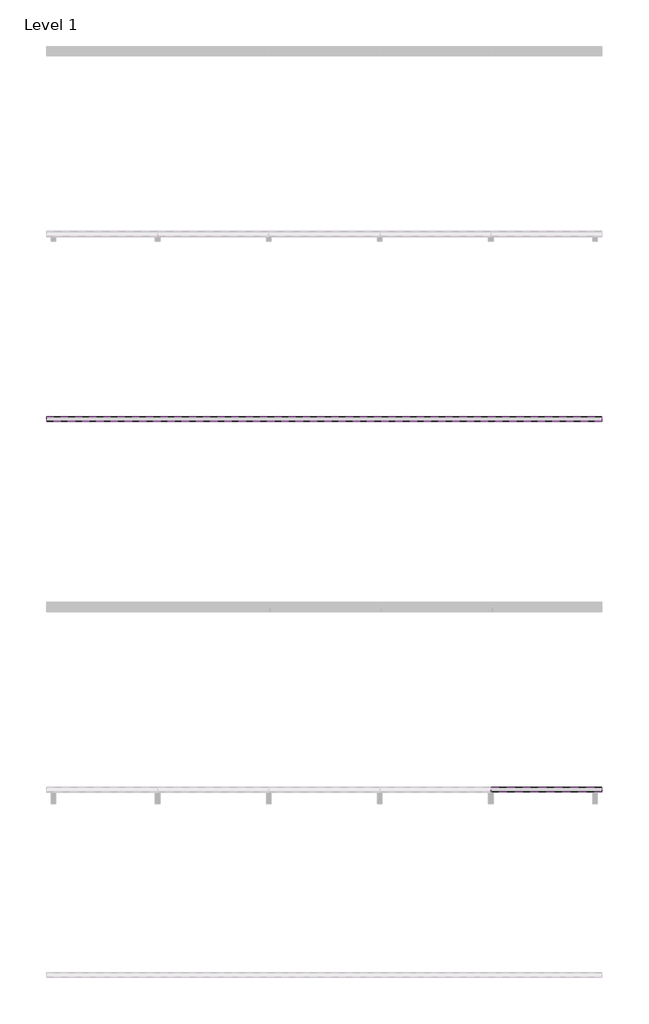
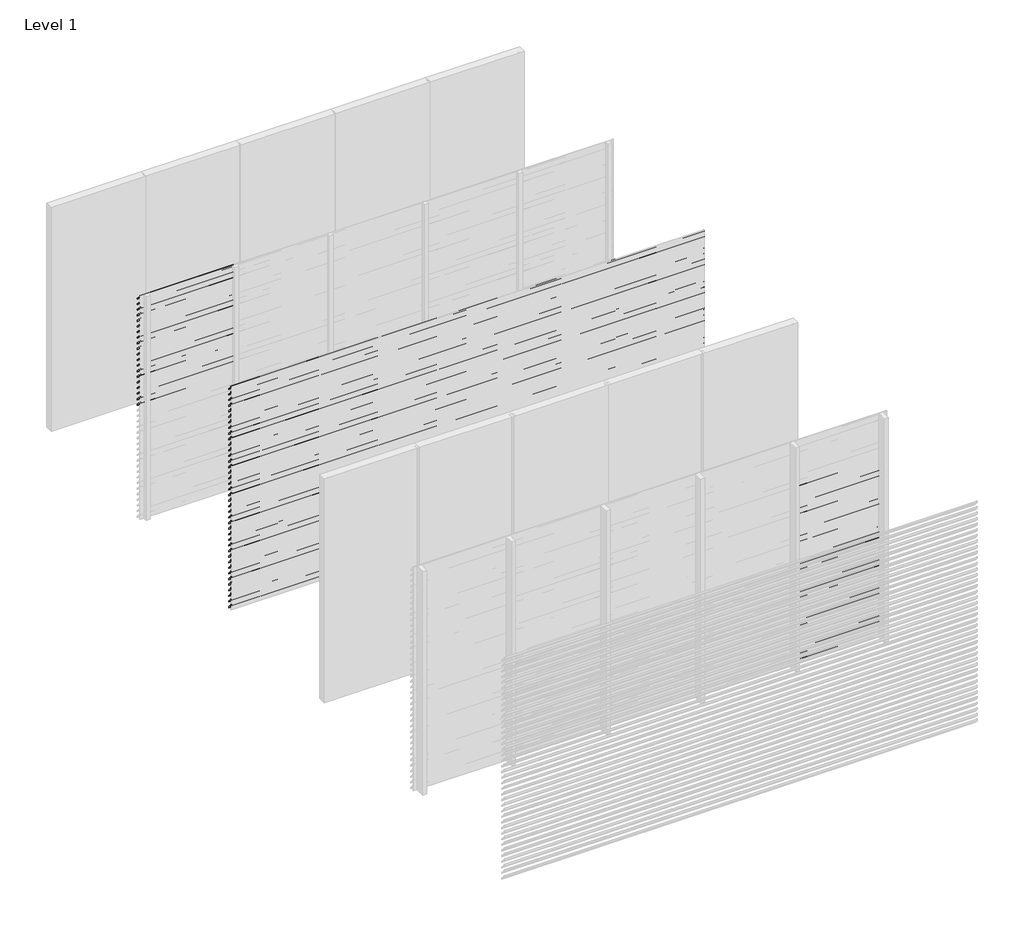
# One storey, part 4 of 11: 92 proxies.
"""IFC4 building model written with IfcOpenShell, lengths in millimetres."""

from ifc_helpers import new_model, si_unit, frame, origin, place, context, project, spatial, polyline, outline, extrude, element, save

model = new_model("IFC4")

# Units and contexts
model_context = context("Model", 3, world=origin())
ifc_project = project(units=[si_unit("LENGTHUNIT", "METRE", prefix="MILLI")], contexts=[model_context])

# Site, building, storey
site = spatial("IfcSite", under=ifc_project)
building = spatial("IfcBuilding", under=site)
storey = spatial("IfcBuildingStorey", under=building, Name="Level 1", Elevation=0.0)

# Proxies
placement = place(None, origin())
element("IfcBuildingElementProxy", 1, Name="Wall Sweeps", at=placement, inside=storey, context=model_context, shape_type="SweptSolid", body=[
    extrude(outline(polyline([(-11995.0, 3000.0), (-11995.0, 2990.7409854), (-11946.0, 2940.0), (-11946.0, 2924.0), (-11997.0, 2976.812046), (-11997.0, 3000.0), (-11995.0, 3000.0)])), frame((0.0, 0.0, 0.0), z_axis=(1.0, 0.0, 0.0), x_axis=(0.0, 1.0, 0.0)), (0.0, 0.0, 1.0), 1200.0),
])
element("IfcBuildingElementProxy", 2, Name="Wall Sweeps", at=placement, inside=storey, context=model_context, shape_type="SweptSolid", body=[
    extrude(outline(polyline([(-11995.0, 2925.0), (-11995.0, 2915.7409854), (-11946.0, 2865.0), (-11946.0, 2849.0), (-11997.0, 2901.812046), (-11997.0, 2925.0), (-11995.0, 2925.0)])), frame((0.0, 0.0, 0.0), z_axis=(1.0, 0.0, 0.0), x_axis=(0.0, 1.0, 0.0)), (0.0, 0.0, 1.0), 1200.0),
])
element("IfcBuildingElementProxy", 3, Name="Wall Sweeps", at=placement, inside=storey, context=model_context, shape_type="SweptSolid", body=[
    extrude(outline(polyline([(-11995.0, 2850.0), (-11995.0, 2840.7409854), (-11946.0, 2790.0), (-11946.0, 2774.0), (-11997.0, 2826.812046), (-11997.0, 2850.0), (-11995.0, 2850.0)])), frame((0.0, 0.0, 0.0), z_axis=(1.0, 0.0, 0.0), x_axis=(0.0, 1.0, 0.0)), (0.0, 0.0, 1.0), 1200.0),
])
element("IfcBuildingElementProxy", 4, Name="Wall Sweeps", at=placement, inside=storey, context=model_context, shape_type="SweptSolid", body=[
    extrude(outline(polyline([(-11995.0, 2775.0), (-11995.0, 2765.7409854), (-11946.0, 2715.0), (-11946.0, 2699.0), (-11997.0, 2751.812046), (-11997.0, 2775.0), (-11995.0, 2775.0)])), frame((0.0, 0.0, 0.0), z_axis=(1.0, 0.0, 0.0), x_axis=(0.0, 1.0, 0.0)), (0.0, 0.0, 1.0), 1200.0),
])
element("IfcBuildingElementProxy", 5, Name="Wall Sweeps", at=placement, inside=storey, context=model_context, shape_type="SweptSolid", body=[
    extrude(outline(polyline([(-11995.0, 2700.0), (-11995.0, 2690.7409854), (-11946.0, 2640.0), (-11946.0, 2624.0), (-11997.0, 2676.812046), (-11997.0, 2700.0), (-11995.0, 2700.0)])), frame((0.0, 0.0, 0.0), z_axis=(1.0, 0.0, 0.0), x_axis=(0.0, 1.0, 0.0)), (0.0, 0.0, 1.0), 1200.0),
])
element("IfcBuildingElementProxy", 6, Name="Wall Sweeps", at=placement, inside=storey, context=model_context, shape_type="SweptSolid", body=[
    extrude(outline(polyline([(-11995.0, 2625.0), (-11995.0, 2615.7409854), (-11946.0, 2565.0), (-11946.0, 2549.0), (-11997.0, 2601.812046), (-11997.0, 2625.0), (-11995.0, 2625.0)])), frame((0.0, 0.0, 0.0), z_axis=(1.0, 0.0, 0.0), x_axis=(0.0, 1.0, 0.0)), (0.0, 0.0, 1.0), 1200.0),
])
element("IfcBuildingElementProxy", 7, Name="Wall Sweeps", at=placement, inside=storey, context=model_context, shape_type="SweptSolid", body=[
    extrude(outline(polyline([(-11995.0, 2550.0), (-11995.0, 2540.7409854), (-11946.0, 2490.0), (-11946.0, 2474.0), (-11997.0, 2526.812046), (-11997.0, 2550.0), (-11995.0, 2550.0)])), frame((0.0, 0.0, 0.0), z_axis=(1.0, 0.0, 0.0), x_axis=(0.0, 1.0, 0.0)), (0.0, 0.0, 1.0), 1200.0),
])
element("IfcBuildingElementProxy", 8, Name="Wall Sweeps", at=placement, inside=storey, context=model_context, shape_type="SweptSolid", body=[
    extrude(outline(polyline([(-11995.0, 2475.0), (-11995.0, 2465.7409854), (-11946.0, 2415.0), (-11946.0, 2399.0), (-11997.0, 2451.812046), (-11997.0, 2475.0), (-11995.0, 2475.0)])), frame((0.0, 0.0, 0.0), z_axis=(1.0, 0.0, 0.0), x_axis=(0.0, 1.0, 0.0)), (0.0, 0.0, 1.0), 1200.0),
])
element("IfcBuildingElementProxy", 9, Name="Wall Sweeps", at=placement, inside=storey, context=model_context, shape_type="SweptSolid", body=[
    extrude(outline(polyline([(-11995.0, 2400.0), (-11995.0, 2390.7409854), (-11946.0, 2340.0), (-11946.0, 2324.0), (-11997.0, 2376.812046), (-11997.0, 2400.0), (-11995.0, 2400.0)])), frame((0.0, 0.0, 0.0), z_axis=(1.0, 0.0, 0.0), x_axis=(0.0, 1.0, 0.0)), (0.0, 0.0, 1.0), 1200.0),
])
element("IfcBuildingElementProxy", 10, Name="Wall Sweeps", at=placement, inside=storey, context=model_context, shape_type="SweptSolid", body=[
    extrude(outline(polyline([(-11995.0, 2325.0), (-11995.0, 2315.7409854), (-11946.0, 2265.0), (-11946.0, 2249.0), (-11997.0, 2301.812046), (-11997.0, 2325.0), (-11995.0, 2325.0)])), frame((0.0, 0.0, 0.0), z_axis=(1.0, 0.0, 0.0), x_axis=(0.0, 1.0, 0.0)), (0.0, 0.0, 1.0), 1200.0),
])
element("IfcBuildingElementProxy", 11, Name="Wall Sweeps", at=placement, inside=storey, context=model_context, shape_type="SweptSolid", body=[
    extrude(outline(polyline([(-11995.0, 2250.0), (-11995.0, 2240.7409854), (-11946.0, 2190.0), (-11946.0, 2174.0), (-11997.0, 2226.812046), (-11997.0, 2250.0), (-11995.0, 2250.0)])), frame((0.0, 0.0, 0.0), z_axis=(1.0, 0.0, 0.0), x_axis=(0.0, 1.0, 0.0)), (0.0, 0.0, 1.0), 1200.0),
])
element("IfcBuildingElementProxy", 12, Name="Wall Sweeps", at=placement, inside=storey, context=model_context, shape_type="SweptSolid", body=[
    extrude(outline(polyline([(-11995.0, 2175.0), (-11995.0, 2165.7409854), (-11946.0, 2115.0), (-11946.0, 2099.0), (-11997.0, 2151.812046), (-11997.0, 2175.0), (-11995.0, 2175.0)])), frame((0.0, 0.0, 0.0), z_axis=(1.0, 0.0, 0.0), x_axis=(0.0, 1.0, 0.0)), (0.0, 0.0, 1.0), 1200.0),
])
element("IfcBuildingElementProxy", 13, Name="Wall Sweeps", at=placement, inside=storey, context=model_context, shape_type="SweptSolid", body=[
    extrude(outline(polyline([(-11995.0, 2100.0), (-11995.0, 2090.7409854), (-11946.0, 2040.0), (-11946.0, 2024.0), (-11997.0, 2076.812046), (-11997.0, 2100.0), (-11995.0, 2100.0)])), frame((0.0, 0.0, 0.0), z_axis=(1.0, 0.0, 0.0), x_axis=(0.0, 1.0, 0.0)), (0.0, 0.0, 1.0), 1200.0),
])
element("IfcBuildingElementProxy", 14, Name="Wall Sweeps", at=placement, inside=storey, context=model_context, shape_type="SweptSolid", body=[
    extrude(outline(polyline([(-11995.0, 2025.0), (-11995.0, 2015.7409854), (-11946.0, 1965.0), (-11946.0, 1949.0), (-11997.0, 2001.812046), (-11997.0, 2025.0), (-11995.0, 2025.0)])), frame((0.0, 0.0, 0.0), z_axis=(1.0, 0.0, 0.0), x_axis=(0.0, 1.0, 0.0)), (0.0, 0.0, 1.0), 1200.0),
])
element("IfcBuildingElementProxy", 15, Name="Wall Sweeps", at=placement, inside=storey, context=model_context, shape_type="SweptSolid", body=[
    extrude(outline(polyline([(-11995.0, 1950.0), (-11995.0, 1940.7409854), (-11946.0, 1890.0), (-11946.0, 1874.0), (-11997.0, 1926.812046), (-11997.0, 1950.0), (-11995.0, 1950.0)])), frame((0.0, 0.0, 0.0), z_axis=(1.0, 0.0, 0.0), x_axis=(0.0, 1.0, 0.0)), (0.0, 0.0, 1.0), 1200.0),
])
element("IfcBuildingElementProxy", 16, Name="Wall Sweeps", at=placement, inside=storey, context=model_context, shape_type="SweptSolid", body=[
    extrude(outline(polyline([(-11995.0, 1875.0), (-11995.0, 1865.7409854), (-11946.0, 1815.0), (-11946.0, 1799.0), (-11997.0, 1851.812046), (-11997.0, 1875.0), (-11995.0, 1875.0)])), frame((0.0, 0.0, 0.0), z_axis=(1.0, 0.0, 0.0), x_axis=(0.0, 1.0, 0.0)), (0.0, 0.0, 1.0), 1200.0),
])
element("IfcBuildingElementProxy", 17, Name="Wall Sweeps", at=placement, inside=storey, context=model_context, shape_type="SweptSolid", body=[
    extrude(outline(polyline([(-11995.0, 1800.0), (-11995.0, 1790.7409854), (-11946.0, 1740.0), (-11946.0, 1724.0), (-11997.0, 1776.812046), (-11997.0, 1800.0), (-11995.0, 1800.0)])), frame((0.0, 0.0, 0.0), z_axis=(1.0, 0.0, 0.0), x_axis=(0.0, 1.0, 0.0)), (0.0, 0.0, 1.0), 1200.0),
])
element("IfcBuildingElementProxy", 18, Name="Wall Sweeps", at=placement, inside=storey, context=model_context, shape_type="SweptSolid", body=[
    extrude(outline(polyline([(-11995.0, 1725.0), (-11995.0, 1715.7409854), (-11946.0, 1665.0), (-11946.0, 1649.0), (-11997.0, 1701.812046), (-11997.0, 1725.0), (-11995.0, 1725.0)])), frame((0.0, 0.0, 0.0), z_axis=(1.0, 0.0, 0.0), x_axis=(0.0, 1.0, 0.0)), (0.0, 0.0, 1.0), 1200.0),
])
element("IfcBuildingElementProxy", 19, Name="Wall Sweeps", at=placement, inside=storey, context=model_context, shape_type="SweptSolid", body=[
    extrude(outline(polyline([(-11995.0, 1650.0), (-11995.0, 1640.7409854), (-11946.0, 1590.0), (-11946.0, 1574.0), (-11997.0, 1626.812046), (-11997.0, 1650.0), (-11995.0, 1650.0)])), frame((0.0, 0.0, 0.0), z_axis=(1.0, 0.0, 0.0), x_axis=(0.0, 1.0, 0.0)), (0.0, 0.0, 1.0), 1200.0),
])
element("IfcBuildingElementProxy", 20, Name="Wall Sweeps", at=placement, inside=storey, context=model_context, shape_type="SweptSolid", body=[
    extrude(outline(polyline([(-11995.0, 1575.0), (-11995.0, 1565.7409854), (-11946.0, 1515.0), (-11946.0, 1499.0), (-11997.0, 1551.812046), (-11997.0, 1575.0), (-11995.0, 1575.0)])), frame((0.0, 0.0, 0.0), z_axis=(1.0, 0.0, 0.0), x_axis=(0.0, 1.0, 0.0)), (0.0, 0.0, 1.0), 1200.0),
])
element("IfcBuildingElementProxy", 21, Name="Wall Sweeps", at=placement, inside=storey, context=model_context, shape_type="SweptSolid", body=[
    extrude(outline(polyline([(-13995.0, 3000.0), (-13995.0, 2990.7409854), (-13946.0, 2940.0), (-13946.0, 2924.0), (-13997.0, 2976.812046), (-13997.0, 3000.0), (-13995.0, 3000.0)])), frame((0.0, 0.0, 0.0), z_axis=(1.0, 0.0, 0.0), x_axis=(0.0, 1.0, 0.0)), (0.0, 0.0, 1.0), 6000.0),
])
element("IfcBuildingElementProxy", 22, Name="Wall Sweeps", at=placement, inside=storey, context=model_context, shape_type="SweptSolid", body=[
    extrude(outline(polyline([(-13995.0, 2925.0), (-13995.0, 2915.7409854), (-13946.0, 2865.0), (-13946.0, 2849.0), (-13997.0, 2901.812046), (-13997.0, 2925.0), (-13995.0, 2925.0)])), frame((0.0, 0.0, 0.0), z_axis=(1.0, 0.0, 0.0), x_axis=(0.0, 1.0, 0.0)), (0.0, 0.0, 1.0), 6000.0),
])
element("IfcBuildingElementProxy", 23, Name="Wall Sweeps", at=placement, inside=storey, context=model_context, shape_type="SweptSolid", body=[
    extrude(outline(polyline([(-13995.0, 2850.0), (-13995.0, 2840.7409854), (-13946.0, 2790.0), (-13946.0, 2774.0), (-13997.0, 2826.812046), (-13997.0, 2850.0), (-13995.0, 2850.0)])), frame((0.0, 0.0, 0.0), z_axis=(1.0, 0.0, 0.0), x_axis=(0.0, 1.0, 0.0)), (0.0, 0.0, 1.0), 6000.0),
])
element("IfcBuildingElementProxy", 24, Name="Wall Sweeps", at=placement, inside=storey, context=model_context, shape_type="SweptSolid", body=[
    extrude(outline(polyline([(-13995.0, 2775.0), (-13995.0, 2765.7409854), (-13946.0, 2715.0), (-13946.0, 2699.0), (-13997.0, 2751.812046), (-13997.0, 2775.0), (-13995.0, 2775.0)])), frame((0.0, 0.0, 0.0), z_axis=(1.0, 0.0, 0.0), x_axis=(0.0, 1.0, 0.0)), (0.0, 0.0, 1.0), 6000.0),
])
element("IfcBuildingElementProxy", 25, Name="Wall Sweeps", at=placement, inside=storey, context=model_context, shape_type="SweptSolid", body=[
    extrude(outline(polyline([(-13995.0, 2700.0), (-13995.0, 2690.7409854), (-13946.0, 2640.0), (-13946.0, 2624.0), (-13997.0, 2676.812046), (-13997.0, 2700.0), (-13995.0, 2700.0)])), frame((0.0, 0.0, 0.0), z_axis=(1.0, 0.0, 0.0), x_axis=(0.0, 1.0, 0.0)), (0.0, 0.0, 1.0), 6000.0),
])
element("IfcBuildingElementProxy", 26, Name="Wall Sweeps", at=placement, inside=storey, context=model_context, shape_type="SweptSolid", body=[
    extrude(outline(polyline([(-13995.0, 2625.0), (-13995.0, 2615.7409854), (-13946.0, 2565.0), (-13946.0, 2549.0), (-13997.0, 2601.812046), (-13997.0, 2625.0), (-13995.0, 2625.0)])), frame((0.0, 0.0, 0.0), z_axis=(1.0, 0.0, 0.0), x_axis=(0.0, 1.0, 0.0)), (0.0, 0.0, 1.0), 6000.0),
])
element("IfcBuildingElementProxy", 27, Name="Wall Sweeps", at=placement, inside=storey, context=model_context, shape_type="SweptSolid", body=[
    extrude(outline(polyline([(-13995.0, 2550.0), (-13995.0, 2540.7409854), (-13946.0, 2490.0), (-13946.0, 2474.0), (-13997.0, 2526.812046), (-13997.0, 2550.0), (-13995.0, 2550.0)])), frame((0.0, 0.0, 0.0), z_axis=(1.0, 0.0, 0.0), x_axis=(0.0, 1.0, 0.0)), (0.0, 0.0, 1.0), 6000.0),
])
element("IfcBuildingElementProxy", 28, Name="Wall Sweeps", at=placement, inside=storey, context=model_context, shape_type="SweptSolid", body=[
    extrude(outline(polyline([(-13995.0, 2475.0), (-13995.0, 2465.7409854), (-13946.0, 2415.0), (-13946.0, 2399.0), (-13997.0, 2451.812046), (-13997.0, 2475.0), (-13995.0, 2475.0)])), frame((0.0, 0.0, 0.0), z_axis=(1.0, 0.0, 0.0), x_axis=(0.0, 1.0, 0.0)), (0.0, 0.0, 1.0), 6000.0),
])
element("IfcBuildingElementProxy", 29, Name="Wall Sweeps", at=placement, inside=storey, context=model_context, shape_type="SweptSolid", body=[
    extrude(outline(polyline([(-13995.0, 2400.0), (-13995.0, 2390.7409854), (-13946.0, 2340.0), (-13946.0, 2324.0), (-13997.0, 2376.812046), (-13997.0, 2400.0), (-13995.0, 2400.0)])), frame((0.0, 0.0, 0.0), z_axis=(1.0, 0.0, 0.0), x_axis=(0.0, 1.0, 0.0)), (0.0, 0.0, 1.0), 6000.0),
])
element("IfcBuildingElementProxy", 30, Name="Wall Sweeps", at=placement, inside=storey, context=model_context, shape_type="SweptSolid", body=[
    extrude(outline(polyline([(-13995.0, 2325.0), (-13995.0, 2315.7409854), (-13946.0, 2265.0), (-13946.0, 2249.0), (-13997.0, 2301.812046), (-13997.0, 2325.0), (-13995.0, 2325.0)])), frame((0.0, 0.0, 0.0), z_axis=(1.0, 0.0, 0.0), x_axis=(0.0, 1.0, 0.0)), (0.0, 0.0, 1.0), 6000.0),
])
element("IfcBuildingElementProxy", 31, Name="Wall Sweeps", at=placement, inside=storey, context=model_context, shape_type="SweptSolid", body=[
    extrude(outline(polyline([(-13995.0, 2250.0), (-13995.0, 2240.7409854), (-13946.0, 2190.0), (-13946.0, 2174.0), (-13997.0, 2226.812046), (-13997.0, 2250.0), (-13995.0, 2250.0)])), frame((0.0, 0.0, 0.0), z_axis=(1.0, 0.0, 0.0), x_axis=(0.0, 1.0, 0.0)), (0.0, 0.0, 1.0), 6000.0),
])
element("IfcBuildingElementProxy", 32, Name="Wall Sweeps", at=placement, inside=storey, context=model_context, shape_type="SweptSolid", body=[
    extrude(outline(polyline([(-13995.0, 2175.0), (-13995.0, 2165.7409854), (-13946.0, 2115.0), (-13946.0, 2099.0), (-13997.0, 2151.812046), (-13997.0, 2175.0), (-13995.0, 2175.0)])), frame((0.0, 0.0, 0.0), z_axis=(1.0, 0.0, 0.0), x_axis=(0.0, 1.0, 0.0)), (0.0, 0.0, 1.0), 6000.0),
])
element("IfcBuildingElementProxy", 33, Name="Wall Sweeps", at=placement, inside=storey, context=model_context, shape_type="SweptSolid", body=[
    extrude(outline(polyline([(-13995.0, 2100.0), (-13995.0, 2090.7409854), (-13946.0, 2040.0), (-13946.0, 2024.0), (-13997.0, 2076.812046), (-13997.0, 2100.0), (-13995.0, 2100.0)])), frame((0.0, 0.0, 0.0), z_axis=(1.0, 0.0, 0.0), x_axis=(0.0, 1.0, 0.0)), (0.0, 0.0, 1.0), 6000.0),
])
element("IfcBuildingElementProxy", 34, Name="Wall Sweeps", at=placement, inside=storey, context=model_context, shape_type="SweptSolid", body=[
    extrude(outline(polyline([(-13995.0, 2025.0), (-13995.0, 2015.7409854), (-13946.0, 1965.0), (-13946.0, 1949.0), (-13997.0, 2001.812046), (-13997.0, 2025.0), (-13995.0, 2025.0)])), frame((0.0, 0.0, 0.0), z_axis=(1.0, 0.0, 0.0), x_axis=(0.0, 1.0, 0.0)), (0.0, 0.0, 1.0), 6000.0),
])
element("IfcBuildingElementProxy", 35, Name="Wall Sweeps", at=placement, inside=storey, context=model_context, shape_type="SweptSolid", body=[
    extrude(outline(polyline([(-13995.0, 1950.0), (-13995.0, 1940.7409854), (-13946.0, 1890.0), (-13946.0, 1874.0), (-13997.0, 1926.812046), (-13997.0, 1950.0), (-13995.0, 1950.0)])), frame((0.0, 0.0, 0.0), z_axis=(1.0, 0.0, 0.0), x_axis=(0.0, 1.0, 0.0)), (0.0, 0.0, 1.0), 6000.0),
])
element("IfcBuildingElementProxy", 36, Name="Wall Sweeps", at=placement, inside=storey, context=model_context, shape_type="SweptSolid", body=[
    extrude(outline(polyline([(-13995.0, 1875.0), (-13995.0, 1865.7409854), (-13946.0, 1815.0), (-13946.0, 1799.0), (-13997.0, 1851.812046), (-13997.0, 1875.0), (-13995.0, 1875.0)])), frame((0.0, 0.0, 0.0), z_axis=(1.0, 0.0, 0.0), x_axis=(0.0, 1.0, 0.0)), (0.0, 0.0, 1.0), 6000.0),
])
element("IfcBuildingElementProxy", 37, Name="Wall Sweeps", at=placement, inside=storey, context=model_context, shape_type="SweptSolid", body=[
    extrude(outline(polyline([(-13995.0, 1800.0), (-13995.0, 1790.7409854), (-13946.0, 1740.0), (-13946.0, 1724.0), (-13997.0, 1776.812046), (-13997.0, 1800.0), (-13995.0, 1800.0)])), frame((0.0, 0.0, 0.0), z_axis=(1.0, 0.0, 0.0), x_axis=(0.0, 1.0, 0.0)), (0.0, 0.0, 1.0), 6000.0),
])
element("IfcBuildingElementProxy", 38, Name="Wall Sweeps", at=placement, inside=storey, context=model_context, shape_type="SweptSolid", body=[
    extrude(outline(polyline([(-13995.0, 1725.0), (-13995.0, 1715.7409854), (-13946.0, 1665.0), (-13946.0, 1649.0), (-13997.0, 1701.812046), (-13997.0, 1725.0), (-13995.0, 1725.0)])), frame((0.0, 0.0, 0.0), z_axis=(1.0, 0.0, 0.0), x_axis=(0.0, 1.0, 0.0)), (0.0, 0.0, 1.0), 6000.0),
])
element("IfcBuildingElementProxy", 39, Name="Wall Sweeps", at=placement, inside=storey, context=model_context, shape_type="SweptSolid", body=[
    extrude(outline(polyline([(-13995.0, 1650.0), (-13995.0, 1640.7409854), (-13946.0, 1590.0), (-13946.0, 1574.0), (-13997.0, 1626.812046), (-13997.0, 1650.0), (-13995.0, 1650.0)])), frame((0.0, 0.0, 0.0), z_axis=(1.0, 0.0, 0.0), x_axis=(0.0, 1.0, 0.0)), (0.0, 0.0, 1.0), 6000.0),
])
element("IfcBuildingElementProxy", 40, Name="Wall Sweeps", at=placement, inside=storey, context=model_context, shape_type="SweptSolid", body=[
    extrude(outline(polyline([(-13995.0, 1575.0), (-13995.0, 1565.7409854), (-13946.0, 1515.0), (-13946.0, 1499.0), (-13997.0, 1551.812046), (-13997.0, 1575.0), (-13995.0, 1575.0)])), frame((0.0, 0.0, 0.0), z_axis=(1.0, 0.0, 0.0), x_axis=(0.0, 1.0, 0.0)), (0.0, 0.0, 1.0), 6000.0),
])
element("IfcBuildingElementProxy", 41, Name="Wall Sweeps", at=placement, inside=storey, context=model_context, shape_type="SweptSolid", body=[
    extrude(outline(polyline([(-13995.0, 1500.0), (-13995.0, 1490.7409854), (-13946.0, 1440.0), (-13946.0, 1424.0), (-13997.0, 1476.812046), (-13997.0, 1500.0), (-13995.0, 1500.0)])), frame((0.0, 0.0, 0.0), z_axis=(1.0, 0.0, 0.0), x_axis=(0.0, 1.0, 0.0)), (0.0, 0.0, 1.0), 6000.0),
])
element("IfcBuildingElementProxy", 42, Name="Wall Sweeps", at=placement, inside=storey, context=model_context, shape_type="SweptSolid", body=[
    extrude(outline(polyline([(-13995.0, 1425.0), (-13995.0, 1415.7409854), (-13946.0, 1365.0), (-13946.0, 1349.0), (-13997.0, 1401.812046), (-13997.0, 1425.0), (-13995.0, 1425.0)])), frame((0.0, 0.0, 0.0), z_axis=(1.0, 0.0, 0.0), x_axis=(0.0, 1.0, 0.0)), (0.0, 0.0, 1.0), 6000.0),
])
element("IfcBuildingElementProxy", 43, Name="Wall Sweeps", at=placement, inside=storey, context=model_context, shape_type="SweptSolid", body=[
    extrude(outline(polyline([(-13995.0, 1350.0), (-13995.0, 1340.7409854), (-13946.0, 1290.0), (-13946.0, 1274.0), (-13997.0, 1326.812046), (-13997.0, 1350.0), (-13995.0, 1350.0)])), frame((0.0, 0.0, 0.0), z_axis=(1.0, 0.0, 0.0), x_axis=(0.0, 1.0, 0.0)), (0.0, 0.0, 1.0), 6000.0),
])
element("IfcBuildingElementProxy", 44, Name="Wall Sweeps", at=placement, inside=storey, context=model_context, shape_type="SweptSolid", body=[
    extrude(outline(polyline([(-13995.0, 1275.0), (-13995.0, 1265.7409854), (-13946.0, 1215.0), (-13946.0, 1199.0), (-13997.0, 1251.812046), (-13997.0, 1275.0), (-13995.0, 1275.0)])), frame((0.0, 0.0, 0.0), z_axis=(1.0, 0.0, 0.0), x_axis=(0.0, 1.0, 0.0)), (0.0, 0.0, 1.0), 6000.0),
])
element("IfcBuildingElementProxy", 45, Name="Wall Sweeps", at=placement, inside=storey, context=model_context, shape_type="SweptSolid", body=[
    extrude(outline(polyline([(-13995.0, 1200.0), (-13995.0, 1190.7409854), (-13946.0, 1140.0), (-13946.0, 1124.0), (-13997.0, 1176.812046), (-13997.0, 1200.0), (-13995.0, 1200.0)])), frame((0.0, 0.0, 0.0), z_axis=(1.0, 0.0, 0.0), x_axis=(0.0, 1.0, 0.0)), (0.0, 0.0, 1.0), 6000.0),
])
element("IfcBuildingElementProxy", 46, Name="Wall Sweeps", at=placement, inside=storey, context=model_context, shape_type="SweptSolid", body=[
    extrude(outline(polyline([(-13995.0, 1125.0), (-13995.0, 1115.7409854), (-13946.0, 1065.0), (-13946.0, 1049.0), (-13997.0, 1101.812046), (-13997.0, 1125.0), (-13995.0, 1125.0)])), frame((0.0, 0.0, 0.0), z_axis=(1.0, 0.0, 0.0), x_axis=(0.0, 1.0, 0.0)), (0.0, 0.0, 1.0), 6000.0),
])
element("IfcBuildingElementProxy", 47, Name="Wall Sweeps", at=placement, inside=storey, context=model_context, shape_type="SweptSolid", body=[
    extrude(outline(polyline([(-13995.0, 1050.0), (-13995.0, 1040.7409854), (-13946.0, 990.0), (-13946.0, 974.0), (-13997.0, 1026.812046), (-13997.0, 1050.0), (-13995.0, 1050.0)])), frame((0.0, 0.0, 0.0), z_axis=(1.0, 0.0, 0.0), x_axis=(0.0, 1.0, 0.0)), (0.0, 0.0, 1.0), 6000.0),
])
element("IfcBuildingElementProxy", 48, Name="Wall Sweeps", at=placement, inside=storey, context=model_context, shape_type="SweptSolid", body=[
    extrude(outline(polyline([(-13995.0, 975.0), (-13995.0, 965.7409854), (-13946.0, 915.0), (-13946.0, 899.0), (-13997.0, 951.812046), (-13997.0, 975.0), (-13995.0, 975.0)])), frame((0.0, 0.0, 0.0), z_axis=(1.0, 0.0, 0.0), x_axis=(0.0, 1.0, 0.0)), (0.0, 0.0, 1.0), 6000.0),
])
element("IfcBuildingElementProxy", 49, Name="Wall Sweeps", at=placement, inside=storey, context=model_context, shape_type="SweptSolid", body=[
    extrude(outline(polyline([(-13995.0, 900.0), (-13995.0, 890.7409854), (-13946.0, 840.0), (-13946.0, 824.0), (-13997.0, 876.812046), (-13997.0, 900.0), (-13995.0, 900.0)])), frame((0.0, 0.0, 0.0), z_axis=(1.0, 0.0, 0.0), x_axis=(0.0, 1.0, 0.0)), (0.0, 0.0, 1.0), 6000.0),
])
element("IfcBuildingElementProxy", 50, Name="Wall Sweeps", at=placement, inside=storey, context=model_context, shape_type="SweptSolid", body=[
    extrude(outline(polyline([(-13995.0, 825.0), (-13995.0, 815.7409854), (-13946.0, 765.0), (-13946.0, 749.0), (-13997.0, 801.812046), (-13997.0, 825.0), (-13995.0, 825.0)])), frame((0.0, 0.0, 0.0), z_axis=(1.0, 0.0, 0.0), x_axis=(0.0, 1.0, 0.0)), (0.0, 0.0, 1.0), 6000.0),
])
element("IfcBuildingElementProxy", 51, Name="Wall Sweeps", at=placement, inside=storey, context=model_context, shape_type="SweptSolid", body=[
    extrude(outline(polyline([(-13995.0, 750.0), (-13995.0, 740.7409854), (-13946.0, 690.0), (-13946.0, 674.0), (-13997.0, 726.812046), (-13997.0, 750.0), (-13995.0, 750.0)])), frame((0.0, 0.0, 0.0), z_axis=(1.0, 0.0, 0.0), x_axis=(0.0, 1.0, 0.0)), (0.0, 0.0, 1.0), 6000.0),
])
element("IfcBuildingElementProxy", 52, Name="Wall Sweeps", at=placement, inside=storey, context=model_context, shape_type="SweptSolid", body=[
    extrude(outline(polyline([(-13995.0, 675.0), (-13995.0, 665.7409854), (-13946.0, 615.0), (-13946.0, 599.0), (-13997.0, 651.812046), (-13997.0, 675.0), (-13995.0, 675.0)])), frame((0.0, 0.0, 0.0), z_axis=(1.0, 0.0, 0.0), x_axis=(0.0, 1.0, 0.0)), (0.0, 0.0, 1.0), 6000.0),
])
element("IfcBuildingElementProxy", 53, Name="Wall Sweeps", at=placement, inside=storey, context=model_context, shape_type="SweptSolid", body=[
    extrude(outline(polyline([(-13995.0, 600.0), (-13995.0, 590.7409854), (-13946.0, 540.0), (-13946.0, 524.0), (-13997.0, 576.812046), (-13997.0, 600.0), (-13995.0, 600.0)])), frame((0.0, 0.0, 0.0), z_axis=(1.0, 0.0, 0.0), x_axis=(0.0, 1.0, 0.0)), (0.0, 0.0, 1.0), 6000.0),
])
element("IfcBuildingElementProxy", 54, Name="Wall Sweeps", at=placement, inside=storey, context=model_context, shape_type="SweptSolid", body=[
    extrude(outline(polyline([(-13995.0, 525.0), (-13995.0, 515.7409854), (-13946.0, 465.0), (-13946.0, 449.0), (-13997.0, 501.812046), (-13997.0, 525.0), (-13995.0, 525.0)])), frame((0.0, 0.0, 0.0), z_axis=(1.0, 0.0, 0.0), x_axis=(0.0, 1.0, 0.0)), (0.0, 0.0, 1.0), 6000.0),
])
element("IfcBuildingElementProxy", 55, Name="Wall Sweeps", at=placement, inside=storey, context=model_context, shape_type="SweptSolid", body=[
    extrude(outline(polyline([(-13995.0, 450.0), (-13995.0, 440.7409854), (-13946.0, 390.0), (-13946.0, 374.0), (-13997.0, 426.812046), (-13997.0, 450.0), (-13995.0, 450.0)])), frame((0.0, 0.0, 0.0), z_axis=(1.0, 0.0, 0.0), x_axis=(0.0, 1.0, 0.0)), (0.0, 0.0, 1.0), 6000.0),
])
element("IfcBuildingElementProxy", 56, Name="Wall Sweeps", at=placement, inside=storey, context=model_context, shape_type="SweptSolid", body=[
    extrude(outline(polyline([(-13995.0, 375.0), (-13995.0, 365.7409854), (-13946.0, 315.0), (-13946.0, 299.0), (-13997.0, 351.812046), (-13997.0, 375.0), (-13995.0, 375.0)])), frame((0.0, 0.0, 0.0), z_axis=(1.0, 0.0, 0.0), x_axis=(0.0, 1.0, 0.0)), (0.0, 0.0, 1.0), 6000.0),
])
element("IfcBuildingElementProxy", 57, Name="Wall Sweeps", at=placement, inside=storey, context=model_context, shape_type="SweptSolid", body=[
    extrude(outline(polyline([(-13995.0, 300.0), (-13995.0, 290.7409854), (-13946.0, 240.0), (-13946.0, 224.0), (-13997.0, 276.812046), (-13997.0, 300.0), (-13995.0, 300.0)])), frame((0.0, 0.0, 0.0), z_axis=(1.0, 0.0, 0.0), x_axis=(0.0, 1.0, 0.0)), (0.0, 0.0, 1.0), 6000.0),
])
element("IfcBuildingElementProxy", 58, Name="Wall Sweeps", at=placement, inside=storey, context=model_context, shape_type="SweptSolid", body=[
    extrude(outline(polyline([(-13995.0, 225.0), (-13995.0, 215.7409854), (-13946.0, 165.0), (-13946.0, 149.0), (-13997.0, 201.812046), (-13997.0, 225.0), (-13995.0, 225.0)])), frame((0.0, 0.0, 0.0), z_axis=(1.0, 0.0, 0.0), x_axis=(0.0, 1.0, 0.0)), (0.0, 0.0, 1.0), 6000.0),
])
element("IfcBuildingElementProxy", 59, Name="Wall Sweeps", at=placement, inside=storey, context=model_context, shape_type="SweptSolid", body=[
    extrude(outline(polyline([(-13995.0, 150.0), (-13995.0, 140.7409854), (-13946.0, 90.0), (-13946.0, 74.0), (-13997.0, 126.812046), (-13997.0, 150.0), (-13995.0, 150.0)])), frame((0.0, 0.0, 0.0), z_axis=(1.0, 0.0, 0.0), x_axis=(0.0, 1.0, 0.0)), (0.0, 0.0, 1.0), 6000.0),
])
element("IfcBuildingElementProxy", 60, Name="Wall Sweeps", at=placement, inside=storey, context=model_context, shape_type="SweptSolid", body=[
    extrude(outline(polyline([(-13995.0, 75.0), (-13995.0, 65.7409854), (-13946.0, 15.0), (-13946.0, -1.0), (-13997.0, 51.812046), (-13997.0, 75.0), (-13995.0, 75.0)])), frame((0.0, 0.0, 0.0), z_axis=(1.0, 0.0, 0.0), x_axis=(0.0, 1.0, 0.0)), (0.0, 0.0, 1.0), 6000.0),
])
element("IfcBuildingElementProxy", 61, Name="Wall Sweeps", at=placement, inside=storey, context=model_context, shape_type="SweptSolid", body=[
    extrude(outline(polyline([(-17995.0, 2400.0), (-17995.0, 2390.7409854), (-17946.0, 2340.0), (-17946.0, 2324.0), (-17997.0, 2376.812046), (-17997.0, 2400.0), (-17995.0, 2400.0)])), frame((4799.9999998, 0.0, 0.0), z_axis=(1.0, 0.0, 0.0), x_axis=(0.0, 1.0, 0.0)), (0.0, 0.0, 1.0), 1200.0000002),
])
element("IfcBuildingElementProxy", 62, Name="Wall Sweeps", at=placement, inside=storey, context=model_context, shape_type="SweptSolid", body=[
    extrude(outline(polyline([(-17995.0, 2325.0), (-17995.0, 2315.7409854), (-17946.0, 2265.0), (-17946.0, 2249.0), (-17997.0, 2301.812046), (-17997.0, 2325.0), (-17995.0, 2325.0)])), frame((4799.9999998, 0.0, 0.0), z_axis=(1.0, 0.0, 0.0), x_axis=(0.0, 1.0, 0.0)), (0.0, 0.0, 1.0), 1200.0000002),
])
element("IfcBuildingElementProxy", 63, Name="Wall Sweeps", at=placement, inside=storey, context=model_context, shape_type="SweptSolid", body=[
    extrude(outline(polyline([(-17995.0, 2250.0), (-17995.0, 2240.7409854), (-17946.0, 2190.0), (-17946.0, 2174.0), (-17997.0, 2226.812046), (-17997.0, 2250.0), (-17995.0, 2250.0)])), frame((4799.9999998, 0.0, 0.0), z_axis=(1.0, 0.0, 0.0), x_axis=(0.0, 1.0, 0.0)), (0.0, 0.0, 1.0), 1200.0000002),
])
element("IfcBuildingElementProxy", 64, Name="Wall Sweeps", at=placement, inside=storey, context=model_context, shape_type="SweptSolid", body=[
    extrude(outline(polyline([(-17995.0, 2175.0), (-17995.0, 2165.7409854), (-17946.0, 2115.0), (-17946.0, 2099.0), (-17997.0, 2151.812046), (-17997.0, 2175.0), (-17995.0, 2175.0)])), frame((4799.9999998, 0.0, 0.0), z_axis=(1.0, 0.0, 0.0), x_axis=(0.0, 1.0, 0.0)), (0.0, 0.0, 1.0), 1200.0000002),
])
element("IfcBuildingElementProxy", 65, Name="Wall Sweeps", at=placement, inside=storey, context=model_context, shape_type="SweptSolid", body=[
    extrude(outline(polyline([(-17995.0, 2100.0), (-17995.0, 2090.7409854), (-17946.0, 2040.0), (-17946.0, 2024.0), (-17997.0, 2076.812046), (-17997.0, 2100.0), (-17995.0, 2100.0)])), frame((4799.9999998, 0.0, 0.0), z_axis=(1.0, 0.0, 0.0), x_axis=(0.0, 1.0, 0.0)), (0.0, 0.0, 1.0), 1200.0000002),
])
element("IfcBuildingElementProxy", 66, Name="Wall Sweeps", at=placement, inside=storey, context=model_context, shape_type="SweptSolid", body=[
    extrude(outline(polyline([(-17995.0, 2025.0), (-17995.0, 2015.7409854), (-17946.0, 1965.0), (-17946.0, 1949.0), (-17997.0, 2001.812046), (-17997.0, 2025.0), (-17995.0, 2025.0)])), frame((4799.9999998, 0.0, 0.0), z_axis=(1.0, 0.0, 0.0), x_axis=(0.0, 1.0, 0.0)), (0.0, 0.0, 1.0), 1200.0000002),
])
element("IfcBuildingElementProxy", 67, Name="Wall Sweeps", at=placement, inside=storey, context=model_context, shape_type="SweptSolid", body=[
    extrude(outline(polyline([(-17995.0, 1950.0), (-17995.0, 1940.7409854), (-17946.0, 1890.0), (-17946.0, 1874.0), (-17997.0, 1926.812046), (-17997.0, 1950.0), (-17995.0, 1950.0)])), frame((4799.9999998, 0.0, 0.0), z_axis=(1.0, 0.0, 0.0), x_axis=(0.0, 1.0, 0.0)), (0.0, 0.0, 1.0), 1200.0000002),
])
element("IfcBuildingElementProxy", 68, Name="Wall Sweeps", at=placement, inside=storey, context=model_context, shape_type="SweptSolid", body=[
    extrude(outline(polyline([(-17995.0, 1875.0), (-17995.0, 1865.7409854), (-17946.0, 1815.0), (-17946.0, 1799.0), (-17997.0, 1851.812046), (-17997.0, 1875.0), (-17995.0, 1875.0)])), frame((4799.9999998, 0.0, 0.0), z_axis=(1.0, 0.0, 0.0), x_axis=(0.0, 1.0, 0.0)), (0.0, 0.0, 1.0), 1200.0000002),
])
element("IfcBuildingElementProxy", 69, Name="Wall Sweeps", at=placement, inside=storey, context=model_context, shape_type="SweptSolid", body=[
    extrude(outline(polyline([(-17995.0, 1800.0), (-17995.0, 1790.7409854), (-17946.0, 1740.0), (-17946.0, 1724.0), (-17997.0, 1776.812046), (-17997.0, 1800.0), (-17995.0, 1800.0)])), frame((4799.9999998, 0.0, 0.0), z_axis=(1.0, 0.0, 0.0), x_axis=(0.0, 1.0, 0.0)), (0.0, 0.0, 1.0), 1200.0000002),
])
element("IfcBuildingElementProxy", 70, Name="Wall Sweeps", at=placement, inside=storey, context=model_context, shape_type="SweptSolid", body=[
    extrude(outline(polyline([(-17995.0, 1725.0), (-17995.0, 1715.7409854), (-17946.0, 1665.0), (-17946.0, 1649.0), (-17997.0, 1701.812046), (-17997.0, 1725.0), (-17995.0, 1725.0)])), frame((4799.9999998, 0.0, 0.0), z_axis=(1.0, 0.0, 0.0), x_axis=(0.0, 1.0, 0.0)), (0.0, 0.0, 1.0), 1200.0000002),
])
element("IfcBuildingElementProxy", 71, Name="Wall Sweeps", at=placement, inside=storey, context=model_context, shape_type="SweptSolid", body=[
    extrude(outline(polyline([(-17995.0, 1650.0), (-17995.0, 1640.7409854), (-17946.0, 1590.0), (-17946.0, 1574.0), (-17997.0, 1626.812046), (-17997.0, 1650.0), (-17995.0, 1650.0)])), frame((4799.9999998, 0.0, 0.0), z_axis=(1.0, 0.0, 0.0), x_axis=(0.0, 1.0, 0.0)), (0.0, 0.0, 1.0), 1200.0000002),
])
element("IfcBuildingElementProxy", 72, Name="Wall Sweeps", at=placement, inside=storey, context=model_context, shape_type="SweptSolid", body=[
    extrude(outline(polyline([(-17995.0, 1575.0), (-17995.0, 1565.7409854), (-17946.0, 1515.0), (-17946.0, 1499.0), (-17997.0, 1551.812046), (-17997.0, 1575.0), (-17995.0, 1575.0)])), frame((4799.9999998, 0.0, 0.0), z_axis=(1.0, 0.0, 0.0), x_axis=(0.0, 1.0, 0.0)), (0.0, 0.0, 1.0), 1200.0000002),
])
element("IfcBuildingElementProxy", 73, Name="Wall Sweeps", at=placement, inside=storey, context=model_context, shape_type="SweptSolid", body=[
    extrude(outline(polyline([(-17995.0, 1500.0), (-17995.0, 1490.7409854), (-17946.0, 1440.0), (-17946.0, 1424.0), (-17997.0, 1476.812046), (-17997.0, 1500.0), (-17995.0, 1500.0)])), frame((4799.9999998, 0.0, 0.0), z_axis=(1.0, 0.0, 0.0), x_axis=(0.0, 1.0, 0.0)), (0.0, 0.0, 1.0), 1200.0000002),
])
element("IfcBuildingElementProxy", 74, Name="Wall Sweeps", at=placement, inside=storey, context=model_context, shape_type="SweptSolid", body=[
    extrude(outline(polyline([(-17995.0, 1425.0), (-17995.0, 1415.7409854), (-17946.0, 1365.0), (-17946.0, 1349.0), (-17997.0, 1401.812046), (-17997.0, 1425.0), (-17995.0, 1425.0)])), frame((4799.9999998, 0.0, 0.0), z_axis=(1.0, 0.0, 0.0), x_axis=(0.0, 1.0, 0.0)), (0.0, 0.0, 1.0), 1200.0000002),
])
element("IfcBuildingElementProxy", 75, Name="Wall Sweeps", at=placement, inside=storey, context=model_context, shape_type="SweptSolid", body=[
    extrude(outline(polyline([(-17995.0, 1350.0), (-17995.0, 1340.7409854), (-17946.0, 1290.0), (-17946.0, 1274.0), (-17997.0, 1326.812046), (-17997.0, 1350.0), (-17995.0, 1350.0)])), frame((4799.9999998, 0.0, 0.0), z_axis=(1.0, 0.0, 0.0), x_axis=(0.0, 1.0, 0.0)), (0.0, 0.0, 1.0), 1200.0000002),
])
element("IfcBuildingElementProxy", 76, Name="Wall Sweeps", at=placement, inside=storey, context=model_context, shape_type="SweptSolid", body=[
    extrude(outline(polyline([(-17995.0, 1275.0), (-17995.0, 1265.7409854), (-17946.0, 1215.0), (-17946.0, 1199.0), (-17997.0, 1251.812046), (-17997.0, 1275.0), (-17995.0, 1275.0)])), frame((4799.9999998, 0.0, 0.0), z_axis=(1.0, 0.0, 0.0), x_axis=(0.0, 1.0, 0.0)), (0.0, 0.0, 1.0), 1200.0000002),
])
element("IfcBuildingElementProxy", 77, Name="Wall Sweeps", at=placement, inside=storey, context=model_context, shape_type="SweptSolid", body=[
    extrude(outline(polyline([(-17995.0, 1200.0), (-17995.0, 1190.7409854), (-17946.0, 1140.0), (-17946.0, 1124.0), (-17997.0, 1176.812046), (-17997.0, 1200.0), (-17995.0, 1200.0)])), frame((4799.9999998, 0.0, 0.0), z_axis=(1.0, 0.0, 0.0), x_axis=(0.0, 1.0, 0.0)), (0.0, 0.0, 1.0), 1200.0000002),
])
element("IfcBuildingElementProxy", 78, Name="Wall Sweeps", at=placement, inside=storey, context=model_context, shape_type="SweptSolid", body=[
    extrude(outline(polyline([(-17995.0, 1125.0), (-17995.0, 1115.7409854), (-17946.0, 1065.0), (-17946.0, 1049.0), (-17997.0, 1101.812046), (-17997.0, 1125.0), (-17995.0, 1125.0)])), frame((4799.9999998, 0.0, 0.0), z_axis=(1.0, 0.0, 0.0), x_axis=(0.0, 1.0, 0.0)), (0.0, 0.0, 1.0), 1200.0000002),
])
element("IfcBuildingElementProxy", 79, Name="Wall Sweeps", at=placement, inside=storey, context=model_context, shape_type="SweptSolid", body=[
    extrude(outline(polyline([(-17995.0, 1050.0), (-17995.0, 1040.7409854), (-17946.0, 990.0), (-17946.0, 974.0), (-17997.0, 1026.812046), (-17997.0, 1050.0), (-17995.0, 1050.0)])), frame((4799.9999998, 0.0, 0.0), z_axis=(1.0, 0.0, 0.0), x_axis=(0.0, 1.0, 0.0)), (0.0, 0.0, 1.0), 1200.0000002),
])
element("IfcBuildingElementProxy", 80, Name="Wall Sweeps", at=placement, inside=storey, context=model_context, shape_type="SweptSolid", body=[
    extrude(outline(polyline([(-17995.0, 975.0), (-17995.0, 965.7409854), (-17946.0, 915.0), (-17946.0, 899.0), (-17997.0, 951.812046), (-17997.0, 975.0), (-17995.0, 975.0)])), frame((4799.9999998, 0.0, 0.0), z_axis=(1.0, 0.0, 0.0), x_axis=(0.0, 1.0, 0.0)), (0.0, 0.0, 1.0), 1200.0000002),
])
element("IfcBuildingElementProxy", 81, Name="Wall Sweeps", at=placement, inside=storey, context=model_context, shape_type="SweptSolid", body=[
    extrude(outline(polyline([(-17995.0, 900.0), (-17995.0, 890.7409854), (-17946.0, 840.0), (-17946.0, 824.0), (-17997.0, 876.812046), (-17997.0, 900.0), (-17995.0, 900.0)])), frame((4799.9999998, 0.0, 0.0), z_axis=(1.0, 0.0, 0.0), x_axis=(0.0, 1.0, 0.0)), (0.0, 0.0, 1.0), 1200.0000002),
])
element("IfcBuildingElementProxy", 82, Name="Wall Sweeps", at=placement, inside=storey, context=model_context, shape_type="SweptSolid", body=[
    extrude(outline(polyline([(-17995.0, 825.0), (-17995.0, 815.7409854), (-17946.0, 765.0), (-17946.0, 749.0), (-17997.0, 801.812046), (-17997.0, 825.0), (-17995.0, 825.0)])), frame((4799.9999998, 0.0, 0.0), z_axis=(1.0, 0.0, 0.0), x_axis=(0.0, 1.0, 0.0)), (0.0, 0.0, 1.0), 1200.0000002),
])
element("IfcBuildingElementProxy", 83, Name="Wall Sweeps", at=placement, inside=storey, context=model_context, shape_type="SweptSolid", body=[
    extrude(outline(polyline([(-17995.0, 750.0), (-17995.0, 740.7409854), (-17946.0, 690.0), (-17946.0, 674.0), (-17997.0, 726.812046), (-17997.0, 750.0), (-17995.0, 750.0)])), frame((4799.9999998, 0.0, 0.0), z_axis=(1.0, 0.0, 0.0), x_axis=(0.0, 1.0, 0.0)), (0.0, 0.0, 1.0), 1200.0000002),
])
element("IfcBuildingElementProxy", 84, Name="Wall Sweeps", at=placement, inside=storey, context=model_context, shape_type="SweptSolid", body=[
    extrude(outline(polyline([(-17995.0, 675.0), (-17995.0, 665.7409854), (-17946.0, 615.0), (-17946.0, 599.0), (-17997.0, 651.812046), (-17997.0, 675.0), (-17995.0, 675.0)])), frame((4799.9999998, 0.0, 0.0), z_axis=(1.0, 0.0, 0.0), x_axis=(0.0, 1.0, 0.0)), (0.0, 0.0, 1.0), 1200.0000002),
])
element("IfcBuildingElementProxy", 85, Name="Wall Sweeps", at=placement, inside=storey, context=model_context, shape_type="SweptSolid", body=[
    extrude(outline(polyline([(-17995.0, 600.0), (-17995.0, 590.7409854), (-17946.0, 540.0), (-17946.0, 524.0), (-17997.0, 576.812046), (-17997.0, 600.0), (-17995.0, 600.0)])), frame((4799.9999998, 0.0, 0.0), z_axis=(1.0, 0.0, 0.0), x_axis=(0.0, 1.0, 0.0)), (0.0, 0.0, 1.0), 1200.0000002),
])
element("IfcBuildingElementProxy", 86, Name="Wall Sweeps", at=placement, inside=storey, context=model_context, shape_type="SweptSolid", body=[
    extrude(outline(polyline([(-17995.0, 525.0), (-17995.0, 515.7409854), (-17946.0, 465.0), (-17946.0, 449.0), (-17997.0, 501.812046), (-17997.0, 525.0), (-17995.0, 525.0)])), frame((4799.9999998, 0.0, 0.0), z_axis=(1.0, 0.0, 0.0), x_axis=(0.0, 1.0, 0.0)), (0.0, 0.0, 1.0), 1200.0000002),
])
element("IfcBuildingElementProxy", 87, Name="Wall Sweeps", at=placement, inside=storey, context=model_context, shape_type="SweptSolid", body=[
    extrude(outline(polyline([(-17995.0, 450.0), (-17995.0, 440.7409854), (-17946.0, 390.0), (-17946.0, 374.0), (-17997.0, 426.812046), (-17997.0, 450.0), (-17995.0, 450.0)])), frame((4799.9999998, 0.0, 0.0), z_axis=(1.0, 0.0, 0.0), x_axis=(0.0, 1.0, 0.0)), (0.0, 0.0, 1.0), 1200.0000002),
])
element("IfcBuildingElementProxy", 88, Name="Wall Sweeps", at=placement, inside=storey, context=model_context, shape_type="SweptSolid", body=[
    extrude(outline(polyline([(-17995.0, 375.0), (-17995.0, 365.7409854), (-17946.0, 315.0), (-17946.0, 299.0), (-17997.0, 351.812046), (-17997.0, 375.0), (-17995.0, 375.0)])), frame((4799.9999998, 0.0, 0.0), z_axis=(1.0, 0.0, 0.0), x_axis=(0.0, 1.0, 0.0)), (0.0, 0.0, 1.0), 1200.0000002),
])
element("IfcBuildingElementProxy", 89, Name="Wall Sweeps", at=placement, inside=storey, context=model_context, shape_type="SweptSolid", body=[
    extrude(outline(polyline([(-17995.0, 300.0), (-17995.0, 290.7409854), (-17946.0, 240.0), (-17946.0, 224.0), (-17997.0, 276.812046), (-17997.0, 300.0), (-17995.0, 300.0)])), frame((4799.9999998, 0.0, 0.0), z_axis=(1.0, 0.0, 0.0), x_axis=(0.0, 1.0, 0.0)), (0.0, 0.0, 1.0), 1200.0000002),
])
element("IfcBuildingElementProxy", 90, Name="Wall Sweeps", at=placement, inside=storey, context=model_context, shape_type="SweptSolid", body=[
    extrude(outline(polyline([(-17995.0, 225.0), (-17995.0, 215.7409854), (-17946.0, 165.0), (-17946.0, 149.0), (-17997.0, 201.812046), (-17997.0, 225.0), (-17995.0, 225.0)])), frame((4799.9999998, 0.0, 0.0), z_axis=(1.0, 0.0, 0.0), x_axis=(0.0, 1.0, 0.0)), (0.0, 0.0, 1.0), 1200.0000002),
])
element("IfcBuildingElementProxy", 91, Name="Wall Sweeps", at=placement, inside=storey, context=model_context, shape_type="SweptSolid", body=[
    extrude(outline(polyline([(-17995.0, 150.0), (-17995.0, 140.7409854), (-17946.0, 90.0), (-17946.0, 74.0), (-17997.0, 126.812046), (-17997.0, 150.0), (-17995.0, 150.0)])), frame((4799.9999998, 0.0, 0.0), z_axis=(1.0, 0.0, 0.0), x_axis=(0.0, 1.0, 0.0)), (0.0, 0.0, 1.0), 1200.0000002),
])
element("IfcBuildingElementProxy", 92, Name="Wall Sweeps", at=placement, inside=storey, context=model_context, shape_type="SweptSolid", body=[
    extrude(outline(polyline([(-17995.0, 75.0), (-17995.0, 65.7409854), (-17946.0, 15.0), (-17946.0, -1.0), (-17997.0, 51.812046), (-17997.0, 75.0), (-17995.0, 75.0)])), frame((4799.9999998, 0.0, 0.0), z_axis=(1.0, 0.0, 0.0), x_axis=(0.0, 1.0, 0.0)), (0.0, 0.0, 1.0), 1200.0000002),
])

save(model, "model.ifc")
